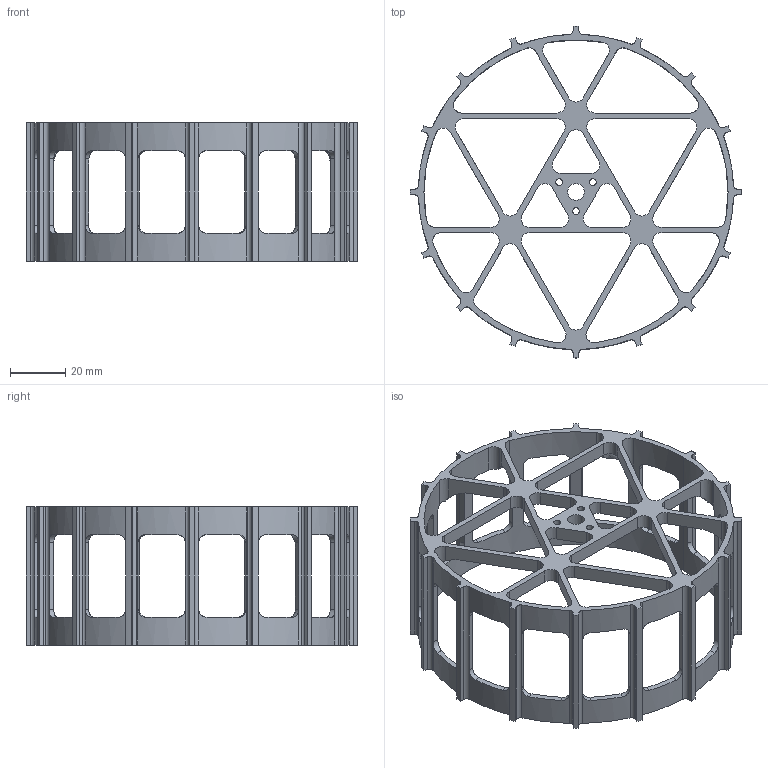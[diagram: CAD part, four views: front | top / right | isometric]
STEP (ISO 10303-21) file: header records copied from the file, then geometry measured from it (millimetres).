
FILE_DESCRIPTION (( 'STEP AP214' ), '1' );
FILE_NAME ('Avadega.STEP', '2025-05-19T12:11:20', ( '' ), ( '' ), 'SwSTEP 2.0', 'SolidWorks 2024', '' );
FILE_SCHEMA (( 'AUTOMOTIVE_DESIGN' ));
Length unit declared in the file: millimetre
Products named in the file (1): Avadega
Bounding box: 120 x 120 x 50 mm (x, y, z)
Volume: 33002.5 mm3; surface area: 35619.9 mm2
Topology: 1 solids, 1 shells, 378 faces, 1169 edges, 753 vertices
Faces by surface type: cylinder 220, plane 135, torus 14, bspline 9
Entity records: 17640 total; most frequent: CARTESIAN_POINT 7243, ORIENTED_EDGE 2336, DIRECTION 2057, EDGE_CURVE 1168, VERTEX_POINT 753, AXIS2_PLACEMENT_3D 737, VECTOR 583, LINE 583
